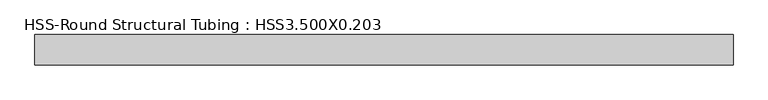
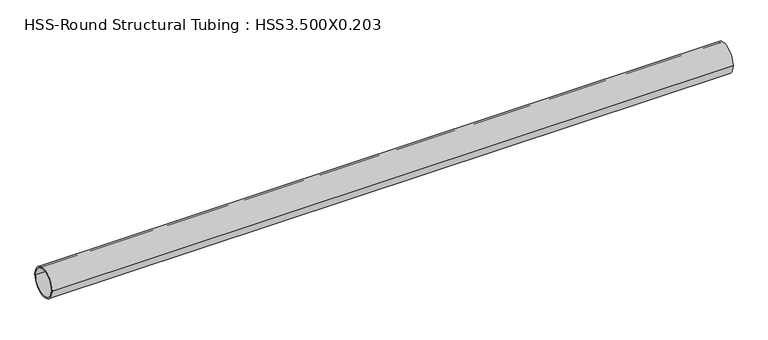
"""IFC4 building model written with IfcOpenShell, lengths in millimetres: member geometry, HSS-Round Structural Tubing : HSS3.500X0.203."""

from ifc_helpers import new_model, si_unit, point, frame, origin, origin_2d, place, context, project, spatial, circle_curve, trimmed, segment, composite_curve, outline, extrude, source, transform, mapped, element, save


def hss_round_structural_tubing_hss3_500x0_203_a8bc4d31(model_context):
    return source(origin(), model_context, "Body", "SweptSolid", [
        extrude(outline(composite_curve([segment(trimmed(circle_curve(origin_2d(), 44.45), [point((-44.45, 0.0))], [point((44.45, 0.0))], False, "CARTESIAN"), True, "CONTINUOUS"), segment(trimmed(circle_curve(origin_2d(), 44.45), [point((44.45, 0.0))], [point((-44.45, 0.0))], False, "CARTESIAN"), True, "CONTINUOUS")], self_intersect=False), holes=[composite_curve([segment(trimmed(circle_curve(origin_2d(), 39.6494), [point((39.6494, 0.0))], [point((-39.6494, 0.0))], True, "CARTESIAN"), True, "CONTINUOUS"), segment(trimmed(circle_curve(origin_2d(), 39.6494), [point((-39.6494, 0.0))], [point((39.6494, 0.0))], True, "CARTESIAN"), True, "CONTINUOUS")], self_intersect=False)]), frame((-1019.5914611, 0.0, 0.0), z_axis=(1.0, 0.0, 0.0), x_axis=(0.0, 1.0, 0.0)), (0.0, 0.0, 1.0), 2039.1829223),
    ])


if __name__ == "__main__":
    model = new_model("IFC4")
    model_context = context("Model", 3, world=origin())
    ifc_project = project(units=[si_unit("LENGTHUNIT", "METRE", prefix="MILLI")], contexts=[model_context])
    site = spatial("IfcSite", under=ifc_project)
    building = spatial("IfcBuilding", under=site)
    placement = place(None, origin())
    hss_round_structural_tubing_hss3_500x0_203_shape = hss_round_structural_tubing_hss3_500x0_203_a8bc4d31(model_context)
    element("IfcMember", 1, ObjectType="HSS-Round Structural Tubing : HSS3.500X0.203", at=placement, inside=building, context=model_context, shape_type="MappedRepresentation", body=[
        mapped(hss_round_structural_tubing_hss3_500x0_203_shape, transform((0.0, 0.0, 0.0), x_axis=(1.0, 0.0, 0.0), y_axis=(0.0, 1.0, 0.0), z_axis=(0.0, 0.0, 1.0))),
    ])
    save(model, "model.ifc")
